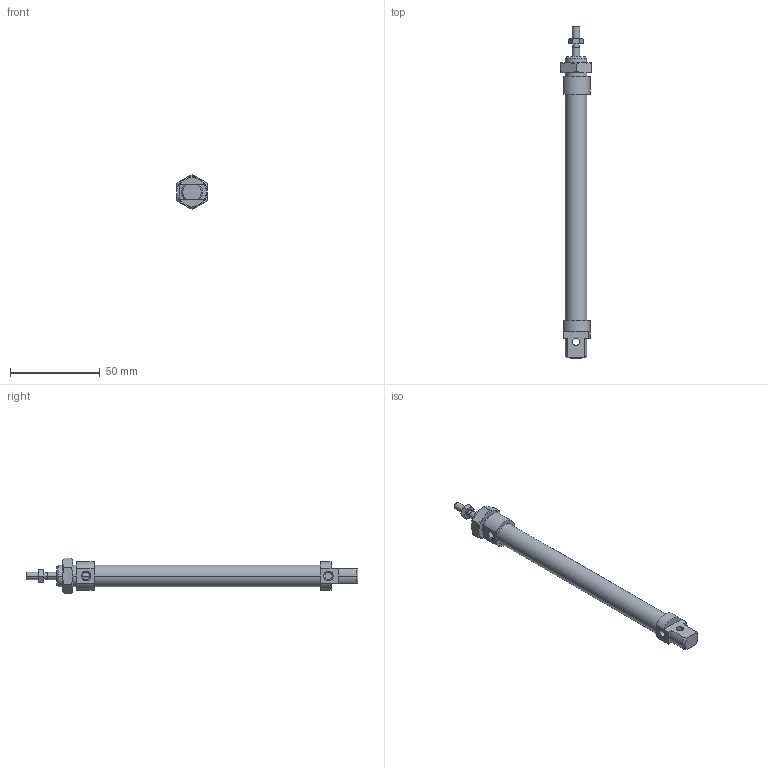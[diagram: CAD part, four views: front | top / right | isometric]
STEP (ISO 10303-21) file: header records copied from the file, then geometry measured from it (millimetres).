
FILE_DESCRIPTION((''),'2;1');
FILE_NAME('I:\DOC-EDP\Lib-3d\1200\CILINDRI\1260\1260_08_0100.stp','2003-04-02T14:55:49',('maffial1'),(''),'Autodesk Inventor (R) 6.0','Autodesk Inventor (R) 6.0','');
FILE_SCHEMA(('AUTOMOTIVE_DESIGN { 1 0 10303 214 1 1 1 1 }'));
Length unit declared in the file: millimetre
Products named in the file (5): 1260_08_0100; S1260_08_100; 1200_08_05; 1200_08_06; C1260_08_100
Assembly tree (4 placements, depth 2):
  1260_08_0100
    S1260_08_100
    1200_08_05
    1200_08_06
    C1260_08_100
Bounding box: 17 x 185 x 19.63 mm (x, y, z)
Volume: 20937 mm3; surface area: 11459.1 mm2
Topology: 4 solids, 4 shells, 117 faces, 261 edges, 158 vertices
Faces by surface type: cone 40, plane 34, cylinder 22, bspline 21
Entity records: 3580 total; most frequent: CARTESIAN_POINT 992, DIRECTION 529, ORIENTED_EDGE 522, EDGE_CURVE 261, AXIS2_PLACEMENT_3D 219, VERTEX_POINT 158, EDGE_LOOP 131, FACE_OUTER_BOUND 117
